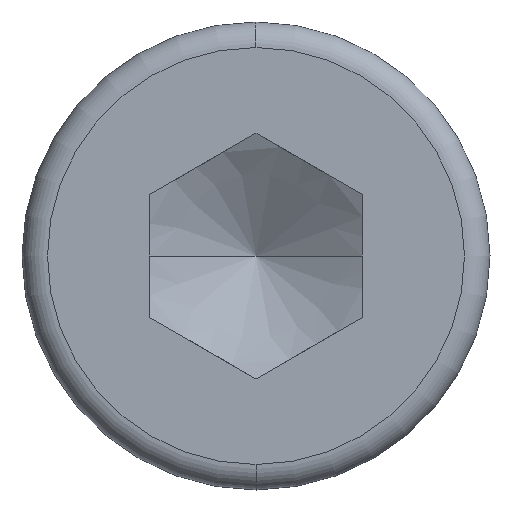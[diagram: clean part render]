
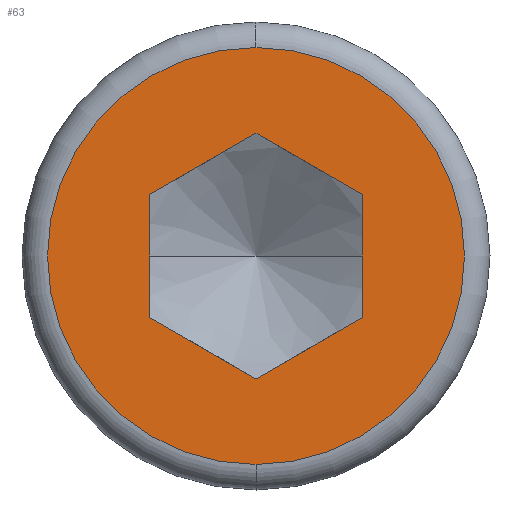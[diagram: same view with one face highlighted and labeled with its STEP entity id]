
A CAD part, left-side view. The second image highlights one B-rep face of the part: STEP entity #63.
In plain terms, the highlighted planar face has unit normal (-1, 0, 0).
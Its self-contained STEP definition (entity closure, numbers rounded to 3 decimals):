
#63=ADVANCED_FACE('',(#102,#103),#104,.T.);
#102=FACE_BOUND('',#146,.T.);
#103=FACE_OUTER_BOUND('',#147,.T.);
#104=PLANE('',#148);
#146=EDGE_LOOP('',(#287,#288,#289,#290,#291,#292));
#147=EDGE_LOOP('',(#293,#294,#295));
#148=AXIS2_PLACEMENT_3D('',#296,#297,#298);
#287=ORIENTED_EDGE('',*,*,#362,.T.);
#288=ORIENTED_EDGE('',*,*,#365,.T.);
#289=ORIENTED_EDGE('',*,*,#359,.T.);
#290=ORIENTED_EDGE('',*,*,#351,.T.);
#291=ORIENTED_EDGE('',*,*,#354,.T.);
#292=ORIENTED_EDGE('',*,*,#356,.T.);
#293=ORIENTED_EDGE('',*,*,#330,.F.);
#294=ORIENTED_EDGE('',*,*,#329,.F.);
#295=ORIENTED_EDGE('',*,*,#372,.F.);
#296=CARTESIAN_POINT('',(-3.0,1.225,0.0));
#297=DIRECTION('',(-1.0,-0.0,0.0));
#298=DIRECTION('',(0.0,-1.0,-0.0));
#329=EDGE_CURVE('',#385,#388,#389,.T.);
#330=EDGE_CURVE('',#388,#390,#391,.T.);
#351=EDGE_CURVE('',#428,#429,#430,.T.);
#354=EDGE_CURVE('',#429,#433,#434,.T.);
#356=EDGE_CURVE('',#433,#436,#437,.T.);
#359=EDGE_CURVE('',#441,#428,#442,.T.);
#362=EDGE_CURVE('',#436,#446,#447,.T.);
#365=EDGE_CURVE('',#446,#441,#451,.T.);
#372=EDGE_CURVE('',#390,#385,#459,.T.);
#385=VERTEX_POINT('',#474);
#388=VERTEX_POINT('',#477);
#389=CIRCLE('',#478,2.45);
#390=VERTEX_POINT('',#479);
#391=CIRCLE('',#480,2.45);
#428=VERTEX_POINT('',#559);
#429=VERTEX_POINT('',#560);
#430=LINE('',#561,#562);
#433=VERTEX_POINT('',#567);
#434=LINE('',#568,#569);
#436=VERTEX_POINT('',#572);
#437=LINE('',#573,#574);
#441=VERTEX_POINT('',#588);
#442=LINE('',#589,#590);
#446=VERTEX_POINT('',#604);
#447=LINE('',#605,#606);
#451=LINE('',#620,#621);
#459=CIRCLE('',#638,2.45);
#474=CARTESIAN_POINT('',(-3.0,0.,-2.45));
#477=CARTESIAN_POINT('',(-3.0,2.45,0.0));
#478=AXIS2_PLACEMENT_3D('',#655,#656,#657);
#479=CARTESIAN_POINT('',(-3.0,0.,2.45));
#480=AXIS2_PLACEMENT_3D('',#658,#659,#660);
#559=CARTESIAN_POINT('',(-3.0,-1.25,-0.722));
#560=CARTESIAN_POINT('',(-3.0,0.,-1.444));
#561=CARTESIAN_POINT('',(-3.0,-0.166,-1.348));
#562=VECTOR('',#697,1.0);
#567=CARTESIAN_POINT('',(-3.0,1.25,-0.722));
#568=CARTESIAN_POINT('',(-3.0,1.085,-0.818));
#569=VECTOR('',#700,1.0);
#572=CARTESIAN_POINT('',(-3.0,1.25,0.722));
#573=CARTESIAN_POINT('',(-3.0,1.25,0.));
#574=VECTOR('',#702,1.0);
#588=CARTESIAN_POINT('',(-3.0,-1.25,0.722));
#589=CARTESIAN_POINT('',(-3.0,-1.25,0.));
#590=VECTOR('',#704,1.0);
#604=CARTESIAN_POINT('',(-3.0,0.,1.444));
#605=CARTESIAN_POINT('',(-3.0,1.085,0.818));
#606=VECTOR('',#706,1.0);
#620=CARTESIAN_POINT('',(-3.0,-0.166,1.348));
#621=VECTOR('',#708,1.0);
#638=AXIS2_PLACEMENT_3D('',#724,#725,#726);
#655=CARTESIAN_POINT('',(-3.0,0.0,0.0));
#656=DIRECTION('',(1.0,0.0,0.0));
#657=DIRECTION('',(0.0,1.0,0.0));
#658=CARTESIAN_POINT('',(-3.0,0.0,0.0));
#659=DIRECTION('',(1.0,0.0,0.0));
#660=DIRECTION('',(0.0,1.0,0.0));
#697=DIRECTION('',(0.0,0.866,-0.5));
#700=DIRECTION('',(0.0,0.866,0.5));
#702=DIRECTION('',(0.0,0.,1.0));
#704=DIRECTION('',(-0.0,-0.0,-1.0));
#706=DIRECTION('',(0.0,-0.866,0.5));
#708=DIRECTION('',(-0.0,-0.866,-0.5));
#724=CARTESIAN_POINT('',(-3.0,0.0,0.0));
#725=DIRECTION('',(1.0,0.0,0.0));
#726=DIRECTION('',(0.0,1.0,0.0));
